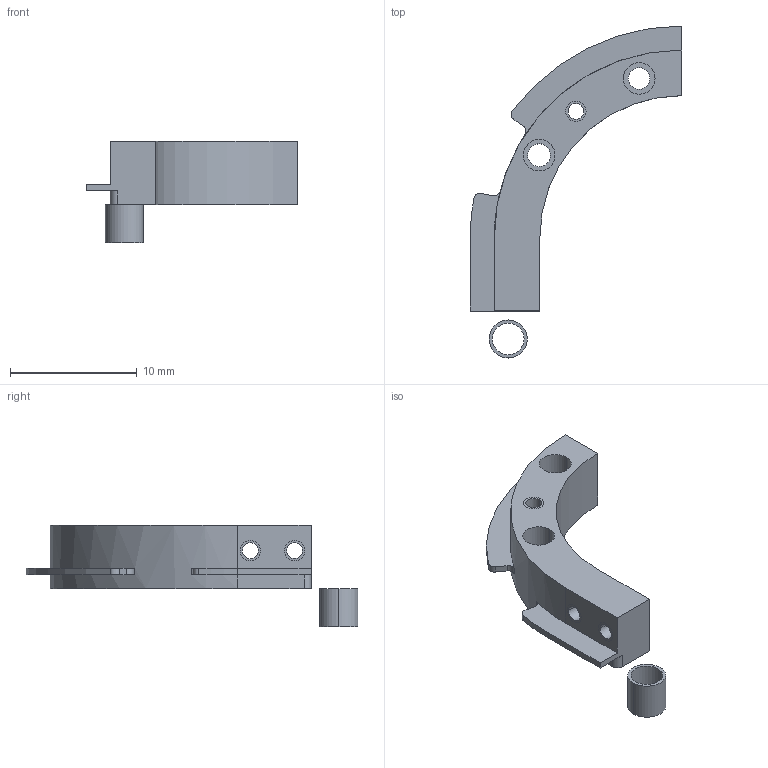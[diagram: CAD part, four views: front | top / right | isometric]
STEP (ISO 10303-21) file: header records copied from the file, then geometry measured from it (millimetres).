
FILE_DESCRIPTION((''),'2;1');
FILE_NAME('ANNTENA_JIGU_1200_2','2020-03-13T',('g0715'),(''),'PRO/ENGINEER BY PARAMETRIC TECHNOLOGY CORPORATION, 2014090','PRO/ENGINEER BY PARAMETRIC TECHNOLOGY CORPORATION, 2014090','');
FILE_SCHEMA(('CONFIG_CONTROL_DESIGN'));
Length unit declared in the file: millimetre
Products named in the file (1): ANNTENA_JIGU_1200_2
Bounding box: 16.7 x 26.2 x 8 mm (x, y, z)
Volume: 443.4 mm3; surface area: 759 mm2
Topology: 1 solids, 5 shells, 52 faces, 140 edges, 96 vertices
Faces by surface type: cylinder 32, plane 20
Entity records: 1739 total; most frequent: DIRECTION 322, CARTESIAN_POINT 289, ORIENTED_EDGE 264, EDGE_CURVE 140, AXIS2_PLACEMENT_3D 129, VERTEX_POINT 96, CIRCLE 76, EDGE_LOOP 68
